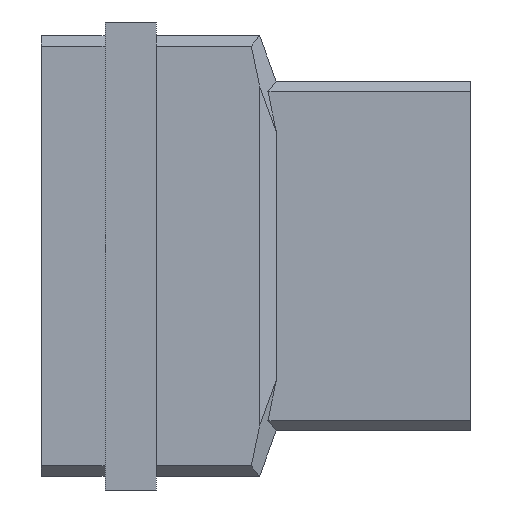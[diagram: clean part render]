
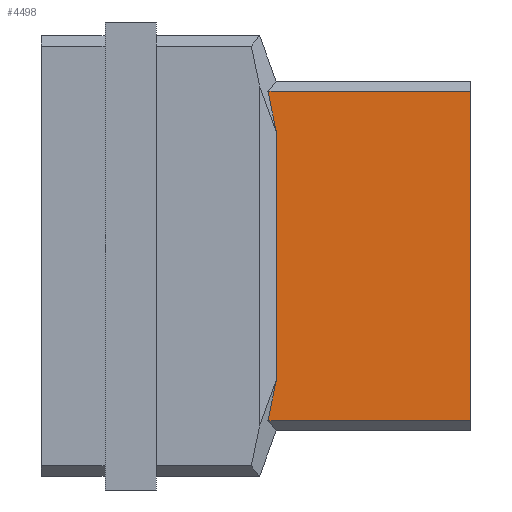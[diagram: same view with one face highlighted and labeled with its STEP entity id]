
A CAD part, left-side view. The second image highlights one B-rep face of the part: STEP entity #4498.
In plain terms, the highlighted planar face has unit normal (-1, 0, 0).
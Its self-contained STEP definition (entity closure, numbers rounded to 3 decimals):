
#116 = VERTEX_POINT ( 'NONE', #5524 ) ;
#252 = CARTESIAN_POINT ( 'NONE',  ( -8.388, -1.717, -20.955 ) ) ;
#339 = CARTESIAN_POINT ( 'NONE',  ( -8.388, -1.717, 7.78 ) ) ;
#356 = EDGE_LOOP ( 'NONE', ( #6547, #7503, #4883, #3037, #9646, #1466 ) ) ;
#363 = CARTESIAN_POINT ( 'NONE',  ( -8.388, -1.074, 7.78 ) ) ;
#405 = CARTESIAN_POINT ( 'NONE',  ( -8.388, -16.937, 7.78 ) ) ;
#417 = VECTOR ( 'NONE', #2375, 1000. ) ;
#500 = CARTESIAN_POINT ( 'NONE',  ( -8.388, -6.776, 9.754 ) ) ;
#707 = VERTEX_POINT ( 'NONE', #6099 ) ;
#902 = VECTOR ( 'NONE', #4913, 1000. ) ;
#969 = LINE ( 'NONE', #8537, #902 ) ;
#1425 = EDGE_CURVE ( 'NONE', #8248, #707, #4148, .T. ) ;
#1430 = DIRECTION ( 'NONE',  ( 0., 0., 1. ) ) ;
#1466 = ORIENTED_EDGE ( 'NONE', *, *, #2519, .T. ) ;
#1526 = CARTESIAN_POINT ( 'NONE',  ( -8.388, -1.717, -20.955 ) ) ;
#2183 = CARTESIAN_POINT ( 'NONE',  ( -8.388, -16.937, -20.955 ) ) ;
#2375 = DIRECTION ( 'NONE',  ( 0., 0., 1. ) ) ;
#2519 = EDGE_CURVE ( 'NONE', #2626, #116, #969, .T. ) ;
#2523 = VECTOR ( 'NONE', #5848, 1000. ) ;
#2534 = VECTOR ( 'NONE', #7585, 1000. ) ;
#2580 = EDGE_CURVE ( 'NONE', #707, #116, #4101, .T. ) ;
#2626 = VERTEX_POINT ( 'NONE', #363 ) ;
#2922 = CARTESIAN_POINT ( 'NONE',  ( -8.388, -1.074, -17.94 ) ) ;
#2941 = FACE_OUTER_BOUND ( 'NONE', #356, .T. ) ;
#3037 = ORIENTED_EDGE ( 'NONE', *, *, #7367, .T. ) ;
#3522 = EDGE_CURVE ( 'NONE', #5728, #2626, #4076, .T. ) ;
#3654 = PLANE ( 'NONE',  #7681 ) ;
#4076 = LINE ( 'NONE', #339, #2534 ) ;
#4101 = LINE ( 'NONE', #252, #417 ) ;
#4148 = LINE ( 'NONE', #500, #2523 ) ;
#4498 = ADVANCED_FACE ( 'NONE', ( #2941 ), #3654, .F. ) ;
#4574 = DIRECTION ( 'NONE',  ( 0., 1., 0. ) ) ;
#4837 = VECTOR ( 'NONE', #1430, 1000. ) ;
#4883 = ORIENTED_EDGE ( 'NONE', *, *, #5533, .F. ) ;
#4913 = DIRECTION ( 'NONE',  ( 0., -0.202, -0.979 ) ) ;
#5175 = LINE ( 'NONE', #2183, #4837 ) ;
#5524 = CARTESIAN_POINT ( 'NONE',  ( -8.388, -1.717, 4.656 ) ) ;
#5533 = EDGE_CURVE ( 'NONE', #8180, #8248, #6120, .T. ) ;
#5728 = VERTEX_POINT ( 'NONE', #405 ) ;
#5848 = DIRECTION ( 'NONE',  ( 0., -0.202, 0.979 ) ) ;
#6016 = DIRECTION ( 'NONE',  ( 1., 0., 0. ) ) ;
#6099 = CARTESIAN_POINT ( 'NONE',  ( -8.388, -1.717, -14.816 ) ) ;
#6120 = LINE ( 'NONE', #6823, #9349 ) ;
#6547 = ORIENTED_EDGE ( 'NONE', *, *, #2580, .F. ) ;
#6823 = CARTESIAN_POINT ( 'NONE',  ( -8.388, -1.717, -17.94 ) ) ;
#7367 = EDGE_CURVE ( 'NONE', #8180, #5728, #5175, .T. ) ;
#7499 = CARTESIAN_POINT ( 'NONE',  ( -8.388, -16.937, -17.94 ) ) ;
#7503 = ORIENTED_EDGE ( 'NONE', *, *, #1425, .F. ) ;
#7585 = DIRECTION ( 'NONE',  ( 0., 1., 0. ) ) ;
#7678 = DIRECTION ( 'NONE',  ( 0., 1., 0. ) ) ;
#7681 = AXIS2_PLACEMENT_3D ( 'NONE', #1526, #6016, #7678 ) ;
#8180 = VERTEX_POINT ( 'NONE', #7499 ) ;
#8248 = VERTEX_POINT ( 'NONE', #2922 ) ;
#8537 = CARTESIAN_POINT ( 'NONE',  ( -8.388, -6.776, -19.914 ) ) ;
#9349 = VECTOR ( 'NONE', #4574, 1000. ) ;
#9646 = ORIENTED_EDGE ( 'NONE', *, *, #3522, .T. ) ;
